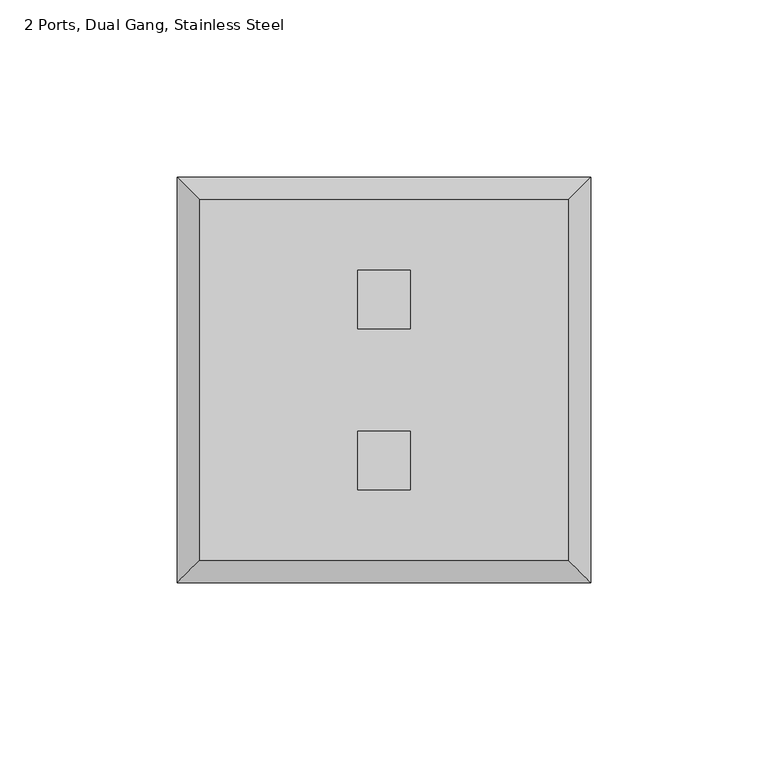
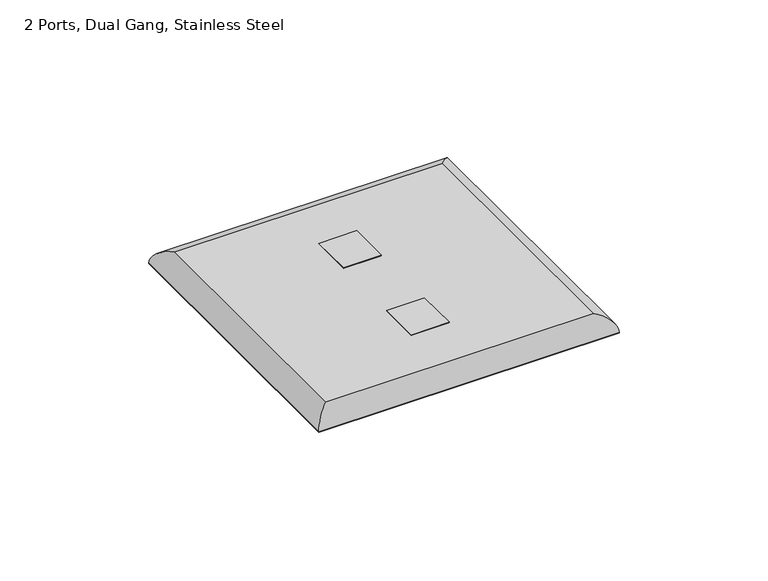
"""IFC4 building model written with IfcOpenShell, lengths in millimetres: electric appliance geometry, Data_Device-Work_Area-Leviton-QuickPort-Wallplate : 2 Ports, Dual Gang, Stainless Steel."""

from ifc_helpers import new_model, si_unit, frame, origin, origin_with_axes, place, context, project, spatial, polyline, ellipse_curve, outline, extrude, source, transform, mapped, element, save
from ifc_brep_helpers import plane_surface, cylinder_surface, advanced_brep


def electric_appliance_2_ports_dual_gang_stainless_steel_f8eb9828(model_context):
    return source(origin(), model_context, "Body", "SolidModel", [
        extrude(outline(polyline([(-15.6591, 39.1414), (-15.6591, 22.6314), (-30.3911, 22.6314), (-30.3911, 39.1414), (-15.6591, 39.1414)])), origin_with_axes(), (0.0, 0.0, 1.0), 6.35),
        extrude(outline(polyline([(-15.6591, -22.7584), (-30.3911, -22.7584), (-30.3911, -6.2484), (-15.6591, -6.2484), (-15.6591, -22.7584)])), origin_with_axes(), (0.0, 0.0, 1.0), 6.35),
        advanced_brep(
        [(28.9179, -42.6085, 6.35), (28.9179, 58.9915, 6.35), (-74.9681, 58.9915, 6.35), (-74.9681, -42.6085, 6.35), (-30.3911, 39.1414, 6.35), (-15.6591, 39.1414, 6.35), (-15.6591, 22.6314, 6.35), (-30.3911, 22.6314, 6.35), (-30.3911, -6.2484, 6.35), (-15.6591, -6.2484, 6.35), (-15.6591, -22.7584, 6.35), (-30.3911, -22.7584, 6.35), (35.2679, 65.3415, 0.0), (35.2679, -48.9585, 0.0), (-81.3181, -48.9585, 0.0), (-81.3181, 65.3415, 0.0), (-15.6591, 39.1414, 0.0), (-30.3911, 39.1414, 0.0), (-30.3911, 22.6314, 0.0), (-15.6591, 22.6314, 0.0), (-15.6591, -6.2484, 0.0), (-30.3911, -6.2484, 0.0), (-30.3911, -22.7584, 0.0), (-15.6591, -22.7584, 0.0), (-81.3181, 65.3415, 0.254), (35.2679, 65.3415, 0.254), (-81.3181, -48.9585, 0.254), (35.2679, -48.9585, 0.254)],
        [
            (0, 1),
            (1, 2),
            (2, 3),
            (3, 0),
            (4, 5),
            (5, 6),
            (6, 7),
            (7, 4),
            (8, 9),
            (9, 10),
            (10, 11),
            (11, 8),
            (12, 13),
            (13, 14),
            (14, 15),
            (15, 12),
            (16, 17),
            (17, 18),
            (18, 19),
            (19, 16),
            (20, 21),
            (21, 22),
            (22, 23),
            (23, 20),
            (15, 24),
            (24, 25),
            (25, 12),
            (14, 26),
            (26, 24),
            (13, 27),
            (27, 26),
            (25, 27),
            (4, 17),
            (16, 5),
            (7, 18),
            (6, 19),
            (8, 21),
            (20, 9),
            (11, 22),
            (10, 23),
            (0, 27, ellipse_curve(frame((28.9179, -42.6085, -0.0052917), z_axis=(0.7071067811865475, 0.7071067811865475, 0.0), x_axis=(0.7071067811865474, -0.7071067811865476, 0.0)), 8.9877397, 6.3552917)),
            (25, 1, ellipse_curve(frame((28.9179, 58.9915, -0.0052917), z_axis=(0.7071067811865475, -0.7071067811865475, 0.0), x_axis=(-0.7071067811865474, -0.7071067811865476, 0.0)), 8.9877397, 6.3552917)),
            (3, 26, ellipse_curve(frame((-74.9681, -42.6085, -0.0052917), z_axis=(0.7071067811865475, -0.7071067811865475, 0.0), x_axis=(-0.7071067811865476, -0.7071067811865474, 0.0)), 8.9877397, 6.3552917)),
            (2, 24, ellipse_curve(frame((-74.9681, 58.9915, -0.0052917), z_axis=(-0.7071067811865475, -0.7071067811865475, 0.0), x_axis=(-0.7071067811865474, 0.7071067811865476, 0.0)), 8.9877397, 6.3552917)),
        ],
        [
            plane_surface(frame((-81.3181, 65.3415, 6.35), z_axis=(0.0, 0.0, 1.0), x_axis=(-1.0, 0.0, 0.0))),
            plane_surface(frame((-81.3181, 65.3415, 0.0), z_axis=(0.0, 0.0, -1.0), x_axis=(1.0, 0.0, 0.0))),
            plane_surface(frame((35.2679, 65.3415, 6.35), z_axis=(0.0, 1.0, 0.0), x_axis=(0.0, 0.0, -1.0))),
            plane_surface(frame((-81.3181, 65.3415, 6.35), z_axis=(-1.0, 0.0, 0.0), x_axis=(0.0, 0.0, -1.0))),
            plane_surface(frame((-81.3181, -48.9585, 6.35), z_axis=(0.0, -1.0, 0.0), x_axis=(0.0, 0.0, -1.0))),
            plane_surface(frame((35.2679, -48.9585, 6.35), z_axis=(1.0, 0.0, 0.0), x_axis=(0.0, 0.0, -1.0))),
            plane_surface(frame((-15.6591, 39.1414, 6.35), z_axis=(0.0, -1.0, 0.0), x_axis=(0.0, 0.0, -1.0))),
            plane_surface(frame((-30.3911, 39.1414, 6.35), z_axis=(1.0, 0.0, 0.0), x_axis=(0.0, 0.0, -1.0))),
            plane_surface(frame((-30.3911, 22.6314, 6.35), z_axis=(0.0, 1.0, 0.0), x_axis=(0.0, 0.0, -1.0))),
            plane_surface(frame((-15.6591, 22.6314, 6.35), z_axis=(-1.0, 0.0, 0.0), x_axis=(0.0, 0.0, -1.0))),
            plane_surface(frame((-15.6591, -6.2484, 6.35), z_axis=(0.0, -1.0, 0.0), x_axis=(0.0, 0.0, -1.0))),
            plane_surface(frame((-30.3911, -6.2484, 6.35), z_axis=(1.0, 0.0, 0.0), x_axis=(0.0, 0.0, -1.0))),
            plane_surface(frame((-30.3911, -22.7584, 6.35), z_axis=(0.0, 1.0, 0.0), x_axis=(0.0, 0.0, -1.0))),
            plane_surface(frame((-15.6591, -22.7584, 6.35), z_axis=(-1.0, 0.0, 0.0), x_axis=(0.0, 0.0, -1.0))),
            cylinder_surface(frame((28.9179, 65.3415, -0.0052917), z_axis=(0.0, -1.0, 0.0), x_axis=(1.0, 0.0, 0.0)), 6.3552917),
            cylinder_surface(frame((35.2679, -42.6085, -0.0052917), z_axis=(-1.0, 0.0, 0.0), x_axis=(0.0, -1.0, 0.0)), 6.3552917),
            cylinder_surface(frame((-74.9681, -48.9585, -0.0052917), z_axis=(0.0, 1.0, 0.0), x_axis=(-1.0, 0.0, 0.0)), 6.3552917),
            cylinder_surface(frame((-81.3181, 58.9915, -0.0052917), z_axis=(1.0, 0.0, 0.0), x_axis=(0.0, 1.0, 0.0)), 6.3552917),
        ],
        [
            (0, [[1, 2, 3, 4], [5, 6, 7, 8], [9, 10, 11, 12]]),
            (1, [[13, 14, 15, 16], [17, 18, 19, 20], [21, 22, 23, 24]]),
            (2, [[-16, 25, 26, 27]]),
            (3, [[-15, 28, 29, -25]]),
            (4, [[-14, 30, 31, -28]]),
            (5, [[-13, -27, 32, -30]]),
            (6, [[33, -17, 34, -5]]),
            (7, [[-33, -8, 35, -18]]),
            (8, [[-35, -7, 36, -19]]),
            (9, [[-34, -20, -36, -6]]),
            (10, [[37, -21, 38, -9]]),
            (11, [[-37, -12, 39, -22]]),
            (12, [[-39, -11, 40, -23]]),
            (13, [[-38, -24, -40, -10]]),
            (14, [[41, -32, 42, -1]]),
            (15, [[-41, -4, 43, -31]]),
            (16, [[-43, -3, 44, -29]]),
            (17, [[-42, -26, -44, -2]]),
        ],
    ),
        extrude(outline(polyline([(35.0139, 65.0875), (35.0139, -48.7045), (-81.0641, -48.7045), (-81.0641, 65.0875), (35.0139, 65.0875)]), holes=[polyline([(-15.6591, 39.1414), (-30.3911, 39.1414), (-30.3911, 22.6314), (-15.6591, 22.6314), (-15.6591, 39.1414)]), polyline([(-15.6591, -6.2484), (-30.3911, -6.2484), (-30.3911, -22.7584), (-15.6591, -22.7584), (-15.6591, -6.2484)])]), origin_with_axes(), (0.0, 0.0, 1.0), 0.254),
    ])


if __name__ == "__main__":
    model = new_model("IFC4")
    model_context = context("Model", 3, world=origin())
    ifc_project = project(units=[si_unit("LENGTHUNIT", "METRE", prefix="MILLI")], contexts=[model_context])
    site = spatial("IfcSite", under=ifc_project)
    building = spatial("IfcBuilding", under=site)
    placement = place(None, origin())
    electric_appliance_2_ports_dual_gang_stainless_steel_shape = electric_appliance_2_ports_dual_gang_stainless_steel_f8eb9828(model_context)
    element("IfcElectricAppliance", 1, ObjectType="Data_Device-Work_Area-Leviton-QuickPort-Wallplate : 2 Ports, Dual Gang, Stainless Steel", at=placement, inside=building, context=model_context, shape_type="MappedRepresentation", body=[
        mapped(electric_appliance_2_ports_dual_gang_stainless_steel_shape, transform((0.0, 0.0, 0.0), x_axis=(1.0, 0.0, 0.0), y_axis=(0.0, 1.0, 0.0), z_axis=(0.0, 0.0, 1.0))),
    ])
    save(model, "model.ifc")
